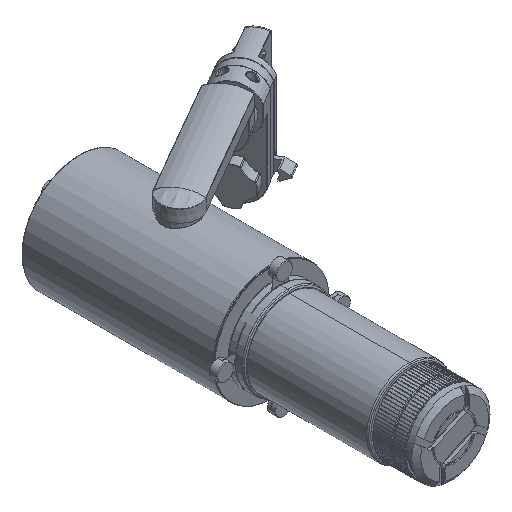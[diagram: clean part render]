
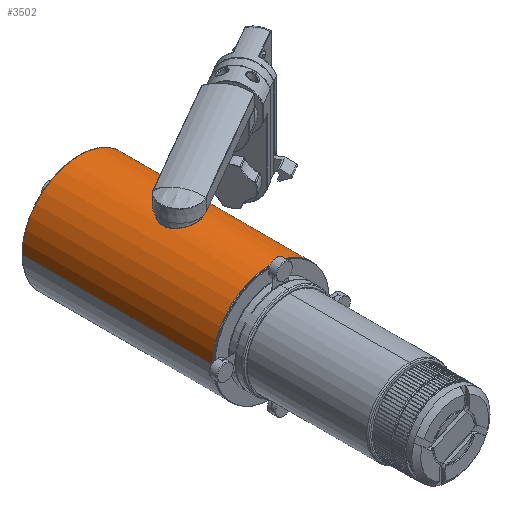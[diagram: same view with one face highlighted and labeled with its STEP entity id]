
A CAD part, isometric view. The second image highlights one B-rep face of the part: STEP entity #3502.
In plain terms, the highlighted cylindrical face has radius 42.25 mm (diameter 84.5 mm), a partial arc.
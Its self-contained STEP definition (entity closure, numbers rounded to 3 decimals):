
#45=CARTESIAN_POINT('',(0.,140.5,0.));
#46=DIRECTION('',(0.,1.,0.));
#47=DIRECTION('',(-1.,0.,0.));
#48=AXIS2_PLACEMENT_3D('',#45,#46,#47);
#50=CARTESIAN_POINT('',(0.,0.5,0.));
#51=DIRECTION('',(0.,-1.,0.));
#52=DIRECTION('',(1.,0.,0.));
#53=AXIS2_PLACEMENT_3D('',#50,#51,#52);
#55=DIRECTION('',(0.,1.,0.));
#56=VECTOR('',#55,140.);
#57=CARTESIAN_POINT('',(-42.25,0.5,0.));
#58=LINE('',#57,#56);
#59=CARTESIAN_POINT('',(12.65,67.001,40.312));
#60=CARTESIAN_POINT('',(12.65,66.193,40.312));
#61=CARTESIAN_POINT('',(12.495,64.599,40.361));
#62=CARTESIAN_POINT('',(11.781,62.225,40.578));
#63=CARTESIAN_POINT('',(10.587,60.006,40.911));
#64=CARTESIAN_POINT('',(8.957,58.054,41.304));
#65=CARTESIAN_POINT('',(6.976,56.473,41.689));
#66=CARTESIAN_POINT('',(4.745,55.326,42.004));
#67=CARTESIAN_POINT('',(2.357,54.638,42.208));
#68=CARTESIAN_POINT('',(-0.114,54.421,42.274));
#69=CARTESIAN_POINT('',(-2.598,54.683,42.194));
#70=CARTESIAN_POINT('',(-5.012,55.431,41.974));
#71=CARTESIAN_POINT('',(-7.252,56.656,41.641));
#72=CARTESIAN_POINT('',(-9.19,58.285,41.252));
#73=CARTESIAN_POINT('',(-10.771,60.298,40.861));
#74=CARTESIAN_POINT('',(-11.81,62.339,40.569));
#75=CARTESIAN_POINT('',(-12.48,64.546,40.366));
#76=CARTESIAN_POINT('',(-12.65,66.16,40.312));
#77=CARTESIAN_POINT('',(-12.65,67.001,40.312));
#79=CARTESIAN_POINT('',(-12.65,67.001,40.312));
#80=CARTESIAN_POINT('',(-12.65,67.809,40.312));
#81=CARTESIAN_POINT('',(-12.495,69.403,40.361));
#82=CARTESIAN_POINT('',(-11.781,71.776,40.578));
#83=CARTESIAN_POINT('',(-10.586,73.995,40.911));
#84=CARTESIAN_POINT('',(-8.957,75.946,41.304));
#85=CARTESIAN_POINT('',(-6.975,77.527,41.689));
#86=CARTESIAN_POINT('',(-4.745,78.674,42.004));
#87=CARTESIAN_POINT('',(-2.357,79.362,42.208));
#88=CARTESIAN_POINT('',(0.114,79.579,42.274));
#89=CARTESIAN_POINT('',(2.597,79.317,42.194));
#90=CARTESIAN_POINT('',(5.011,78.569,41.974));
#91=CARTESIAN_POINT('',(7.251,77.344,41.641));
#92=CARTESIAN_POINT('',(9.189,75.716,41.252));
#93=CARTESIAN_POINT('',(10.77,73.704,40.862));
#94=CARTESIAN_POINT('',(11.81,71.663,40.569));
#95=CARTESIAN_POINT('',(12.479,69.456,40.366));
#96=CARTESIAN_POINT('',(12.65,67.841,40.312));
#97=CARTESIAN_POINT('',(12.65,67.001,40.312));
#2531=DIRECTION('',(0.,1.,0.));
#2532=VECTOR('',#2531,140.);
#2533=CARTESIAN_POINT('',(42.25,0.5,0.));
#2534=LINE('',#2533,#2532);
#3071=CARTESIAN_POINT('',(42.25,140.5,0.));
#3072=CARTESIAN_POINT('',(-42.25,140.5,0.));
#3073=VERTEX_POINT('',#3071);
#3074=VERTEX_POINT('',#3072);
#3079=CARTESIAN_POINT('',(-42.25,0.5,0.));
#3080=CARTESIAN_POINT('',(42.25,0.5,0.));
#3081=VERTEX_POINT('',#3079);
#3082=VERTEX_POINT('',#3080);
#3083=VERTEX_POINT('',#59);
#3084=VERTEX_POINT('',#77);
#3482=CARTESIAN_POINT('',(0.,0.,0.));
#3483=DIRECTION('',(0.,1.,0.));
#3484=DIRECTION('',(1.,0.,0.));
#3485=AXIS2_PLACEMENT_3D('',#3482,#3483,#3484);
#3486=CYLINDRICAL_SURFACE('',#3485,42.25);
#3488=ORIENTED_EDGE('',*,*,#3487,.T.);
#3490=ORIENTED_EDGE('',*,*,#3489,.F.);
#3491=ORIENTED_EDGE('',*,*,#3469,.T.);
#3493=ORIENTED_EDGE('',*,*,#3492,.T.);
#3494=EDGE_LOOP('',(#3488,#3490,#3491,#3493));
#3495=FACE_OUTER_BOUND('',#3494,.F.);
#3497=ORIENTED_EDGE('',*,*,#3496,.F.);
#3499=ORIENTED_EDGE('',*,*,#3498,.F.);
#3500=EDGE_LOOP('',(#3497,#3499));
#3501=FACE_BOUND('',#3500,.F.);
#49=CIRCLE('',#48,42.25);
#54=CIRCLE('',#53,42.25);
#78=B_SPLINE_CURVE_WITH_KNOTS('',3,(#59,#60,#61,#62,#63,#64,#65,#66,#67,#68,#69,
#70,#71,#72,#73,#74,#75,#76,#77),.UNSPECIFIED.,.F.,.F.,(4,1,1,1,1,1,1,1,1,1,1,1,
1,1,1,1,4),(0.,0.063,0.125,0.188,0.25,0.313,0.375,0.438,
0.5,0.563,0.625,0.688,0.75,0.813,0.875,0.938,1.),
.UNSPECIFIED.);
#98=B_SPLINE_CURVE_WITH_KNOTS('',3,(#79,#80,#81,#82,#83,#84,#85,#86,#87,#88,#89,
#90,#91,#92,#93,#94,#95,#96,#97),.UNSPECIFIED.,.F.,.F.,(4,1,1,1,1,1,1,1,1,1,1,1,
1,1,1,1,4),(0.,0.063,0.125,0.188,0.25,0.313,0.375,0.438,
0.5,0.563,0.625,0.688,0.75,0.813,0.875,0.938,1.),
.UNSPECIFIED.);
#3469=EDGE_CURVE('',#3082,#3081,#54,.T.);
#3487=EDGE_CURVE('',#3074,#3073,#49,.T.);
#3489=EDGE_CURVE('',#3082,#3073,#2534,.T.);
#3492=EDGE_CURVE('',#3081,#3074,#58,.T.);
#3496=EDGE_CURVE('',#3083,#3084,#78,.T.);
#3498=EDGE_CURVE('',#3084,#3083,#98,.T.);
#3502=ADVANCED_FACE('',(#3495,#3501),#3486,.T.);
